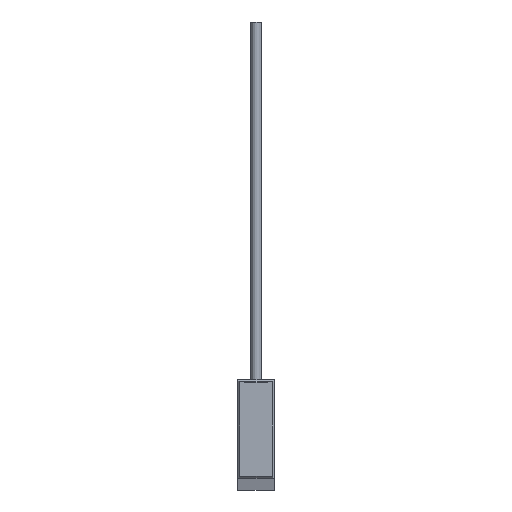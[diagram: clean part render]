
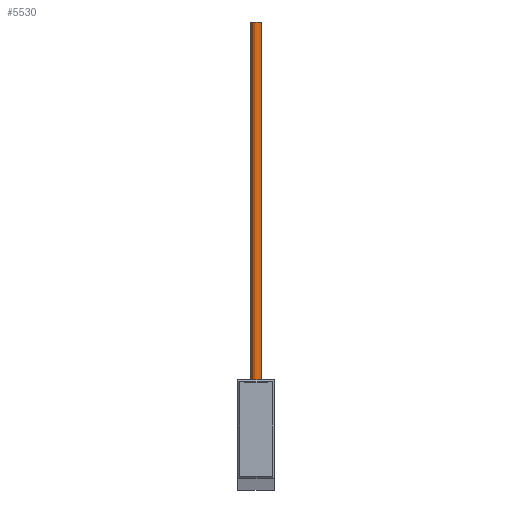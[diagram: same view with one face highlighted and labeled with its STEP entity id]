
A CAD part, top view. The second image highlights one B-rep face of the part: STEP entity #5530.
In plain terms, the highlighted cylindrical face has radius 1.5 mm (diameter 3 mm), a partial arc.
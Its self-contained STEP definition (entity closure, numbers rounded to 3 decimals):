
#18 = CARTESIAN_POINT ( 'NONE',  ( -36.784, 25.406, 1080. ) ) ;
#444 = EDGE_CURVE ( 'NONE', #5410, #5343, #10501, .T. ) ;
#804 = AXIS2_PLACEMENT_3D ( 'NONE', #18, #5758, #841 ) ;
#841 = DIRECTION ( 'NONE',  ( 0., 0., 1. ) ) ;
#1224 = CARTESIAN_POINT ( 'NONE',  ( -38.284, 124.406, 1080. ) ) ;
#2161 = VERTEX_POINT ( 'NONE', #9593 ) ;
#2454 = ORIENTED_EDGE ( 'NONE', *, *, #4039, .F. ) ;
#2573 = DIRECTION ( 'NONE',  ( -1., 0., 0. ) ) ;
#3703 = DIRECTION ( 'NONE',  ( 0., -1., 0. ) ) ;
#4039 = EDGE_CURVE ( 'NONE', #5410, #9799, #6391, .T. ) ;
#4291 = CARTESIAN_POINT ( 'NONE',  ( -35.284, 124.406, 1080. ) ) ;
#4422 = CARTESIAN_POINT ( 'NONE',  ( -36.784, 124.406, 1080. ) ) ;
#4433 = VECTOR ( 'NONE', #3703, 1000. ) ;
#4461 = EDGE_CURVE ( 'NONE', #2161, #5343, #6626, .T. ) ;
#4534 = AXIS2_PLACEMENT_3D ( 'NONE', #4422, #10040, #5225 ) ;
#5091 = CYLINDRICAL_SURFACE ( 'NONE', #6220, 1.5 ) ;
#5225 = DIRECTION ( 'NONE',  ( 1., 0., 0. ) ) ;
#5340 = ORIENTED_EDGE ( 'NONE', *, *, #444, .T. ) ;
#5343 = VERTEX_POINT ( 'NONE', #8748 ) ;
#5410 = VERTEX_POINT ( 'NONE', #9670 ) ;
#5530 = ADVANCED_FACE ( 'NONE', ( #7472 ), #5091, .T. ) ;
#5730 = VECTOR ( 'NONE', #8221, 1000. ) ;
#5758 = DIRECTION ( 'NONE',  ( 0., -1., 0. ) ) ;
#6155 = CARTESIAN_POINT ( 'NONE',  ( -35.284, 124.406, 1080. ) ) ;
#6220 = AXIS2_PLACEMENT_3D ( 'NONE', #6615, #7422, #2573 ) ;
#6391 = CIRCLE ( 'NONE', #4534, 1.5 ) ;
#6615 = CARTESIAN_POINT ( 'NONE',  ( -36.784, 124.406, 1080. ) ) ;
#6626 = CIRCLE ( 'NONE', #804, 1.5 ) ;
#7422 = DIRECTION ( 'NONE',  ( 0., -1., 0. ) ) ;
#7472 = FACE_OUTER_BOUND ( 'NONE', #10176, .T. ) ;
#7479 = EDGE_CURVE ( 'NONE', #9799, #2161, #8692, .T. ) ;
#8221 = DIRECTION ( 'NONE',  ( 0., -1., 0. ) ) ;
#8692 = LINE ( 'NONE', #6155, #4433 ) ;
#8748 = CARTESIAN_POINT ( 'NONE',  ( -38.284, 25.406, 1080. ) ) ;
#8881 = ORIENTED_EDGE ( 'NONE', *, *, #4461, .F. ) ;
#9145 = ORIENTED_EDGE ( 'NONE', *, *, #7479, .F. ) ;
#9593 = CARTESIAN_POINT ( 'NONE',  ( -35.284, 25.406, 1080. ) ) ;
#9670 = CARTESIAN_POINT ( 'NONE',  ( -38.284, 124.406, 1080. ) ) ;
#9799 = VERTEX_POINT ( 'NONE', #4291 ) ;
#10040 = DIRECTION ( 'NONE',  ( 0., 1., 0. ) ) ;
#10176 = EDGE_LOOP ( 'NONE', ( #9145, #2454, #5340, #8881 ) ) ;
#10501 = LINE ( 'NONE', #1224, #5730 ) ;
